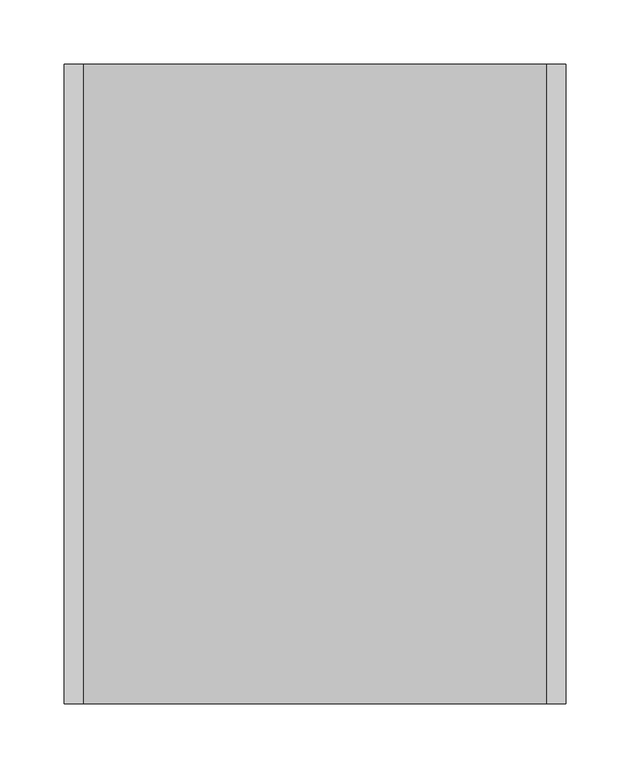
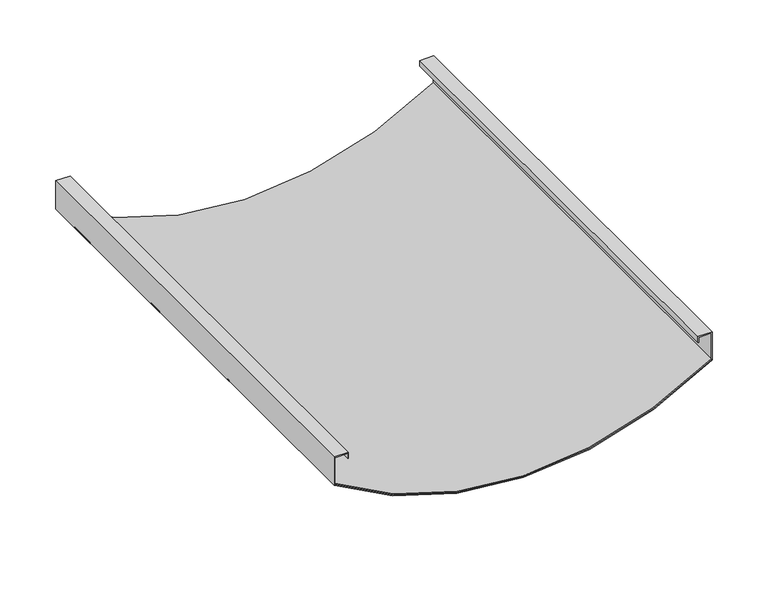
"""IFC4 building model written with IfcOpenShell, lengths in millimetres: proxy geometry, durlum_S7_DOMUS_ALT_panel : durlum_S7_DOMUS_panel_wall_corner."""

from ifc_helpers import new_model, si_unit, point, frame, frame_2d, origin, place, context, project, spatial, polyline, circle_curve, trimmed, segment, composite_curve, outline, extrude, source, transform, mapped, element, save


def generic_models_3b12604e(model_context):
    return source(origin(), model_context, "Body", "SweptSolid", [
        extrude(outline(composite_curve([segment(polyline([(0.5317373, 195.0), (1.7380876, 195.0)]), True, "CONTINUOUS"), segment(trimmed(circle_curve(frame_2d((290.1333333, 0.0)), 348.1333333), [point((1.7380876, 195.0))], [point((1.7380876, -195.0))], True, "CARTESIAN"), True, "CONTINUOUS"), segment(polyline([(1.7380876, -195.0), (0.5317373, -195.0)]), True, "CONTINUOUS"), segment(trimmed(circle_curve(frame_2d((290.1333333, 0.0)), 349.1333333), [point((0.5317373, -195.0))], [point((0.5317373, 195.0))], False, "CARTESIAN"), True, "CONTINUOUS")], self_intersect=False)), frame((0.0, -249.75, 0.0), z_axis=(0.0, 1.0, 0.0), x_axis=(0.0, 0.0, 1.0)), (0.0, 0.0, 1.0), 499.5),
        extrude(outline(polyline([(31.0, -196.0), (0.0, -196.0), (0.0, -195.0), (30.0, -195.0), (30.0, -182.0), (24.5, -182.0), (24.5, -181.0), (31.0, -181.0), (31.0, -196.0)])), frame((0.0, -249.75, 0.0), z_axis=(0.0, 1.0, 0.0), x_axis=(0.0, 0.0, 1.0)), (0.0, 0.0, 1.0), 499.5),
        extrude(outline(polyline([(31.0, 196.0), (31.0, 181.0), (24.5, 181.0), (24.5, 182.0), (30.0, 182.0), (30.0, 195.0), (0.0, 195.0), (0.0, 196.0), (31.0, 196.0)])), frame((0.0, -249.75, 0.0), z_axis=(0.0, 1.0, 0.0), x_axis=(0.0, 0.0, 1.0)), (0.0, 0.0, 1.0), 499.5),
        extrude(outline(composite_curve([segment(trimmed(circle_curve(frame_2d((290.1333333, 0.0)), 350.1333333), [point((0.0, -196.0))], [point((0.0, 196.0))], False, "CARTESIAN"), True, "CONTINUOUS"), segment(polyline([(0.0, 196.0), (1.2075912, 196.0)]), True, "CONTINUOUS"), segment(trimmed(circle_curve(frame_2d((290.1333333, 0.0)), 349.1333333), [point((1.2075912, 196.0))], [point((1.2075912, -196.0))], True, "CARTESIAN"), True, "CONTINUOUS"), segment(polyline([(1.2075912, -196.0), (0.0, -196.0)]), True, "CONTINUOUS")], self_intersect=False)), frame((0.0, -249.75, 0.0), z_axis=(0.0, 1.0, 0.0), x_axis=(0.0, 0.0, 1.0)), (0.0, 0.0, 1.0), 499.5),
    ])


if __name__ == "__main__":
    model = new_model("IFC4")
    model_context = context("Model", 3, world=origin())
    ifc_project = project(units=[si_unit("LENGTHUNIT", "METRE", prefix="MILLI")], contexts=[model_context])
    site = spatial("IfcSite", under=ifc_project)
    building = spatial("IfcBuilding", under=site)
    placement = place(None, origin())
    generic_models_shape = generic_models_3b12604e(model_context)
    element("IfcBuildingElementProxy", 1, Name="durlum_S7_DOMUS_ALT_panel : durlum_S7_DOMUS_panel_wall_corner", ObjectType="durlum_S7_DOMUS_ALT_panel : durlum_S7_DOMUS_panel_wall_corner", at=placement, inside=building, context=model_context, shape_type="MappedRepresentation", body=[
        mapped(generic_models_shape, transform((0.0, 0.0, 0.0), x_axis=(1.0, 0.0, 0.0), y_axis=(0.0, 1.0, 0.0), z_axis=(0.0, 0.0, 1.0))),
    ])
    save(model, "model.ifc")
